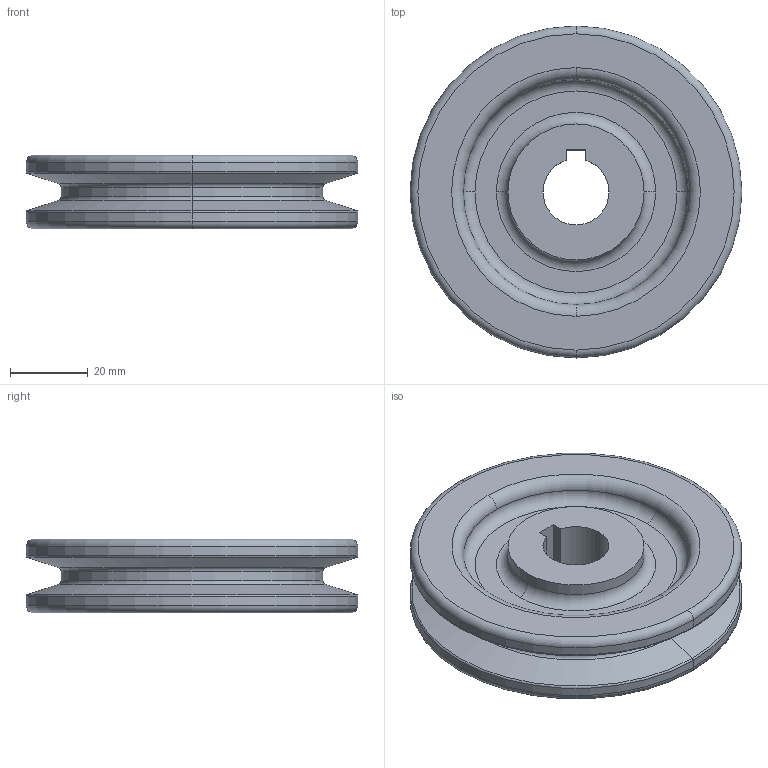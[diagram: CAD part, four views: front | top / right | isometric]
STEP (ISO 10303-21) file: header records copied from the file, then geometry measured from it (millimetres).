
FILE_DESCRIPTION (( 'STEP AP203' ), '1' );
FILE_NAME ('381225E1006-V骇飘敲府.STEP', '2018-12-27T08:44:12', ( 'mhghj' ), ( '' ), 'SwSTEP 2.0', 'SolidWorks 2013', '' );
FILE_SCHEMA (( 'CONFIG_CONTROL_DESIGN' ));
Length unit declared in the file: millimetre
Products named in the file (1): 381225E1006-V骇飘敲府
Bounding box: 85.4 x 85.4 x 19 mm (x, y, z)
Volume: 69108.9 mm3; surface area: 21635.9 mm2
Topology: 1 solids, 1 shells, 50 faces, 106 edges, 62 vertices
Faces by surface type: torus 24, cylinder 13, plane 9, cone 4
Entity records: 1443 total; most frequent: DIRECTION 288, CARTESIAN_POINT 219, ORIENTED_EDGE 212, AXIS2_PLACEMENT_3D 131, EDGE_CURVE 106, CIRCLE 80, VERTEX_POINT 62, EDGE_LOOP 56
